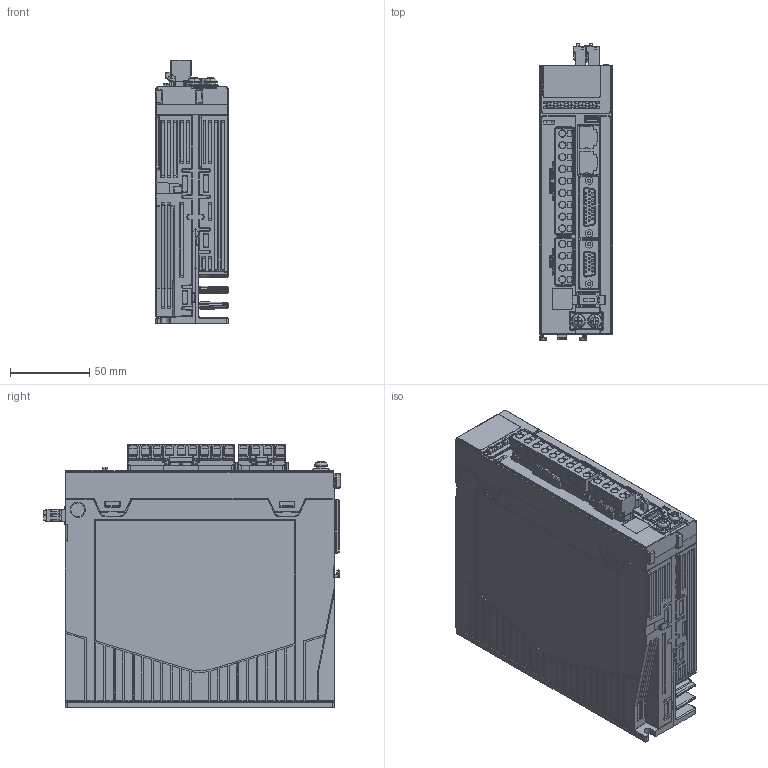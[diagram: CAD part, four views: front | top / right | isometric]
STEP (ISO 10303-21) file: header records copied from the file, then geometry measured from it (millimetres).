
FILE_DESCRIPTION((''),'2;1');
FILE_NAME('SV670N-INT-SIZE-A_ASM','2024-02-03T',('10009991'),(''),'CREO PARAMETRIC BY PTC INC, 2015290','CREO PARAMETRIC BY PTC INC, 2015290','');
FILE_SCHEMA(('AUTOMOTIVE_DESIGN { 1 0 10303 214 1 1 1 1 }'));
Products named in the file (7): SV670N-INT-SIZE-A; SV670N-INT-SIZE-A-A_ASM; 9EDGK-7_5-04P_20180409_6_1; 9EDGK-7_5-09P_20180409_6_1; DZ_ASM_5_ASM_1_ASM; PXC_1707854_01_FMCD-4PIN_1_1; SV670N-INT-SIZE-A_ASM
Assembly tree (6 placements, depth 3):
  SV670N-INT-SIZE-A_ASM
    SV670N-INT-SIZE-A-A_ASM
      SV670N-INT-SIZE-A
    DZ_ASM_5_ASM_1_ASM
      9EDGK-7_5-04P_20180409_6_1
      9EDGK-7_5-09P_20180409_6_1
    PXC_1707854_01_FMCD-4PIN_1_1
Bounding box: 45.5 x 187.4 x 166.5 mm (x, y, z)
Volume: 1092363.4 mm3; surface area: 123130.6 mm2
Topology: 4 solids, 6 shells, 5790 faces, 15529 edges, 9910 vertices
Faces by surface type: plane 3650, cylinder 1347, bspline 409, torus 145, cone 96, sphere 72, extrusion 71
Entity records: 267221 total; most frequent: CARTESIAN_POINT 79151, ORIENTED_EDGE 30864, DIRECTION 26788, EDGE_CURVE 15432, VECTOR 11220, LINE 11149, PRESENTATION_STYLE_ASSIGNMENT 10573, STYLED_ITEM 10209
